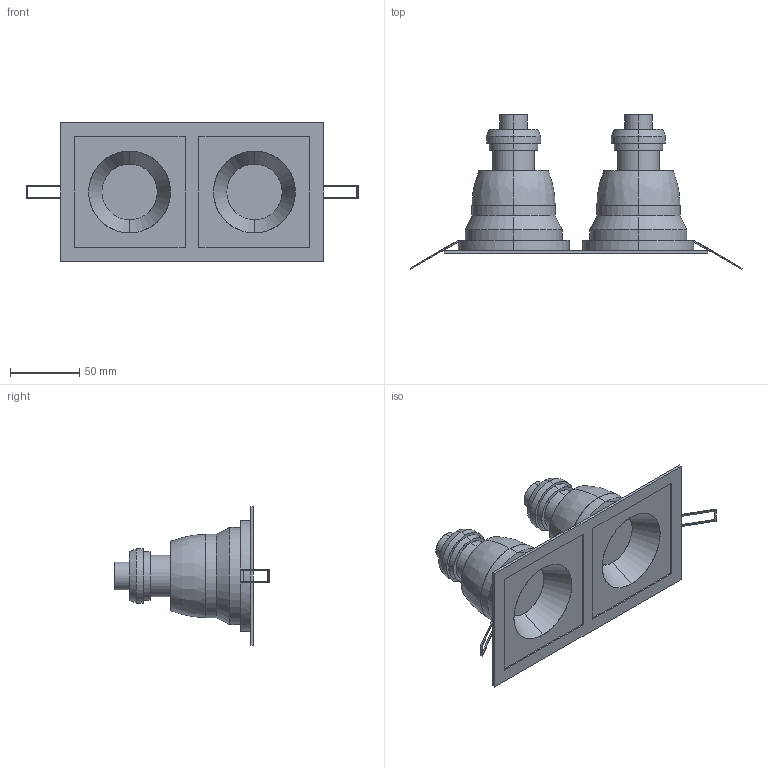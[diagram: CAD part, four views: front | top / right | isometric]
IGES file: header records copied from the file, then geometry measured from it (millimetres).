
Start section: SolidWorks IGES file using analytic representation for surfaces
Global section: file name: C:\Users\danielet\Desktop\3D CARLOS\SAN-P36792-3D\SAN-P36792-3D.IGS; native system: SolidWorks 2018; preprocessor: SolidWorks 2018; author: danielet; date: 220126.135741; units: millimetre
Bounding box: 239.28 x 111.37 x 100 mm (x, y, z)
Surface area: 73189.2 mm2 (no closed solid volume)
Topology: 0 solids, 0 shells, 96 faces, 2054 edges, 2054 vertices
Faces by surface type: bspline 56, revolution 40
